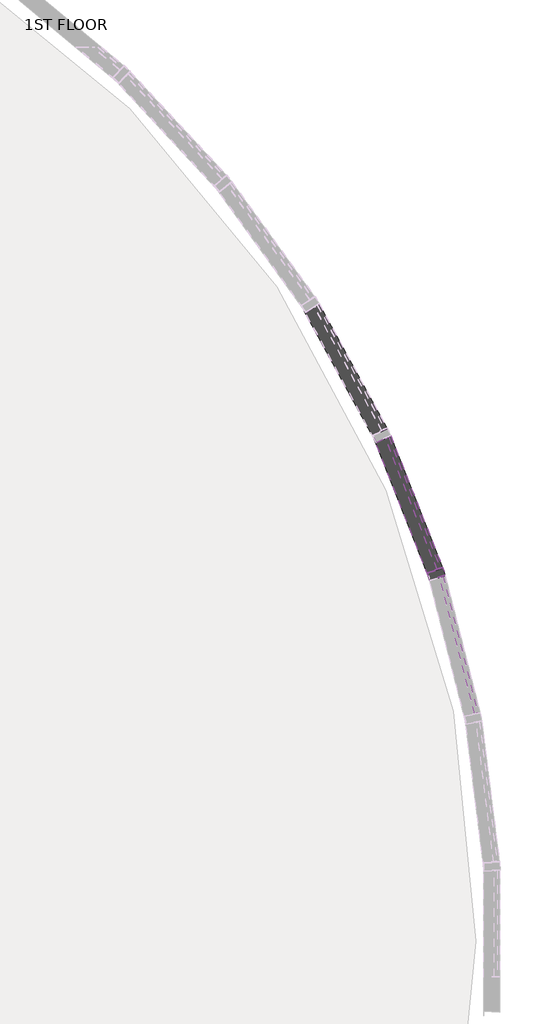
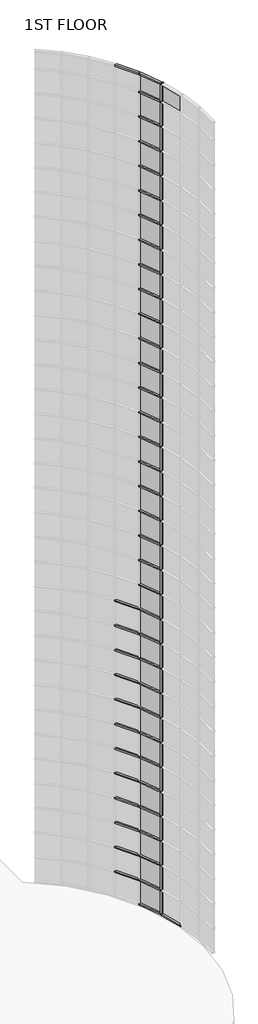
# One storey, part 10 of 17: 83 members, 35 plates.
"""IFC4 building model written with IfcOpenShell, lengths in millimetres."""

from ifc_helpers import new_model, si_unit, origin, place, context, project, spatial, transform, mapped, element, save
from components import member_56cb0dcd, member_0c249660, member_2b49869a, member_410c6227, system_panel_glazed_ce2914f7, system_panel_glazed_e049e42f, system_panel_glazed_5ae89cf9

model = new_model("IFC4")

# Units and contexts
model_context = context("Model", 3, world=origin())
ifc_project = project(units=[si_unit("LENGTHUNIT", "METRE", prefix="MILLI")], contexts=[model_context])

# Site, building, storey
site = spatial("IfcSite", under=ifc_project)
building = spatial("IfcBuilding", under=site)
storey = spatial("IfcBuildingStorey", under=building, Name="1ST FLOOR", Elevation=4572.0)

# Members
placement = place(None, origin())
member_shape = member_56cb0dcd(model_context)
element("IfcMember", 1, ObjectType="Rectangular Mullion : 2.5\" x 5\" rectangular", at=placement, inside=storey, context=model_context, shape_type="MappedRepresentation", body=[
    mapped(member_shape, transform((47383.2901045, 20886.3133681, 45720.0), x_axis=(0.0, 0.0, 1.0), y_axis=(-0.8776564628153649, -0.47929023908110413, 0.0), z_axis=(0.47929023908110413, -0.8776564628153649, 0.0))),
])
element("IfcMember", 2, ObjectType="Rectangular Mullion : 2.5\" x 5\" rectangular", at=placement, inside=storey, context=model_context, shape_type="MappedRepresentation", body=[
    mapped(member_shape, transform((47812.1210744, 19807.3148182, 45720.0), x_axis=(0.0, 0.0, 1.0), y_axis=(-0.9305499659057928, -0.36616493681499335, 0.0), z_axis=(0.3661649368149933, -0.9305499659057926, 0.0))),
])
element("IfcMember", 3, ObjectType="Rectangular Mullion : 2.5\" x 5\" rectangular", at=placement, inside=storey, context=model_context, shape_type="MappedRepresentation", body=[
    mapped(member_shape, transform((47410.1333063, 20828.902814, 4572.0), x_axis=(0.0, 0.0, -1.0), y_axis=(-0.9305499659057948, -0.3661649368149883, 0.0), z_axis=(-0.36616493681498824, 0.9305499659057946, 0.0))),
])
element("IfcMember", 4, ObjectType="Rectangular Mullion : 2.5\" x 5\" rectangular", at=placement, inside=storey, context=model_context, shape_type="MappedRepresentation", body=[
    mapped(member_shape, transform((47831.5995156, 19747.006282, 4572.0), x_axis=(0.0, 0.0, -1.0), y_axis=(-0.9689314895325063, -0.24732927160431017, 0.0), z_axis=(-0.24732927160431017, 0.9689314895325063, 0.0))),
])
member_2_shape = member_0c249660(model_context)
element("IfcMember", 5, ObjectType="Rectangular Mullion : 2.5\" x 5\" rectangular", at=placement, inside=storey, context=model_context, shape_type="MappedRepresentation", body=[
    mapped(member_2_shape, transform((47383.2901045, 20886.3133681, 5791.2), x_axis=(0.0, 0.0, 1.0), y_axis=(-0.8776564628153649, -0.47929023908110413, 0.0), z_axis=(0.47929023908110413, -0.8776564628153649, 0.0))),
])
element("IfcMember", 6, ObjectType="Rectangular Mullion : 2.5\" x 5\" rectangular", at=placement, inside=storey, context=model_context, shape_type="MappedRepresentation", body=[
    mapped(member_2_shape, transform((47812.1210744, 19807.3148182, 5791.2), x_axis=(0.0, 0.0, 1.0), y_axis=(-0.9305499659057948, -0.3661649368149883, 0.0), z_axis=(0.36616493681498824, -0.9305499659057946, 0.0))),
])
element("IfcMember", 7, ObjectType="Rectangular Mullion : 2.5\" x 5\" rectangular", at=placement, inside=storey, context=model_context, shape_type="MappedRepresentation", body=[
    mapped(member_2_shape, transform((47383.2901045, 20886.3133681, 7010.4), x_axis=(0.0, 0.0, 1.0), y_axis=(-0.8776564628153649, -0.47929023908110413, 0.0), z_axis=(0.47929023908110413, -0.8776564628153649, 0.0))),
])
element("IfcMember", 8, ObjectType="Rectangular Mullion : 2.5\" x 5\" rectangular", at=placement, inside=storey, context=model_context, shape_type="MappedRepresentation", body=[
    mapped(member_2_shape, transform((47812.1210744, 19807.3148182, 7010.4), x_axis=(0.0, 0.0, 1.0), y_axis=(-0.9305499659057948, -0.3661649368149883, 0.0), z_axis=(0.36616493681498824, -0.9305499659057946, 0.0))),
])
element("IfcMember", 9, ObjectType="Rectangular Mullion : 2.5\" x 5\" rectangular", at=placement, inside=storey, context=model_context, shape_type="MappedRepresentation", body=[
    mapped(member_2_shape, transform((47383.2901045, 20886.3133681, 8229.6), x_axis=(0.0, 0.0, 1.0), y_axis=(-0.8776564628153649, -0.47929023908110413, 0.0), z_axis=(0.47929023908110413, -0.8776564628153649, 0.0))),
])
element("IfcMember", 10, ObjectType="Rectangular Mullion : 2.5\" x 5\" rectangular", at=placement, inside=storey, context=model_context, shape_type="MappedRepresentation", body=[
    mapped(member_2_shape, transform((47812.1210744, 19807.3148182, 8229.6), x_axis=(0.0, 0.0, 1.0), y_axis=(-0.9305499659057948, -0.3661649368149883, 0.0), z_axis=(0.36616493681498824, -0.9305499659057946, 0.0))),
])
element("IfcMember", 11, ObjectType="Rectangular Mullion : 2.5\" x 5\" rectangular", at=placement, inside=storey, context=model_context, shape_type="MappedRepresentation", body=[
    mapped(member_2_shape, transform((47383.2901045, 20886.3133681, 9448.8), x_axis=(0.0, 0.0, 1.0), y_axis=(-0.87765646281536, -0.479290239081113, 0.0), z_axis=(0.479290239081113, -0.87765646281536, 0.0))),
])
element("IfcMember", 12, ObjectType="Rectangular Mullion : 2.5\" x 5\" rectangular", at=placement, inside=storey, context=model_context, shape_type="MappedRepresentation", body=[
    mapped(member_2_shape, transform((47812.1210744, 19807.3148182, 9448.8), x_axis=(0.0, 0.0, 1.0), y_axis=(-0.9305499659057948, -0.3661649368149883, 0.0), z_axis=(0.36616493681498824, -0.9305499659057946, 0.0))),
])
element("IfcMember", 13, ObjectType="Rectangular Mullion : 2.5\" x 5\" rectangular", at=placement, inside=storey, context=model_context, shape_type="MappedRepresentation", body=[
    mapped(member_2_shape, transform((47383.2901045, 20886.3133681, 10668.0), x_axis=(0.0, 0.0, 1.0), y_axis=(-0.87765646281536, -0.479290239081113, 0.0), z_axis=(0.479290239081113, -0.87765646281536, 0.0))),
])
element("IfcMember", 14, ObjectType="Rectangular Mullion : 2.5\" x 5\" rectangular", at=placement, inside=storey, context=model_context, shape_type="MappedRepresentation", body=[
    mapped(member_2_shape, transform((47812.1210744, 19807.3148182, 10668.0), x_axis=(0.0, 0.0, 1.0), y_axis=(-0.9305499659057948, -0.3661649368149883, 0.0), z_axis=(0.36616493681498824, -0.9305499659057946, 0.0))),
])
element("IfcMember", 15, ObjectType="Rectangular Mullion : 2.5\" x 5\" rectangular", at=placement, inside=storey, context=model_context, shape_type="MappedRepresentation", body=[
    mapped(member_2_shape, transform((47383.2901045, 20886.3133681, 11887.2), x_axis=(0.0, 0.0, 1.0), y_axis=(-0.87765646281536, -0.479290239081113, 0.0), z_axis=(0.479290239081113, -0.87765646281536, 0.0))),
])
element("IfcMember", 16, ObjectType="Rectangular Mullion : 2.5\" x 5\" rectangular", at=placement, inside=storey, context=model_context, shape_type="MappedRepresentation", body=[
    mapped(member_2_shape, transform((47812.1210744, 19807.3148182, 11887.2), x_axis=(0.0, 0.0, 1.0), y_axis=(-0.9305499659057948, -0.3661649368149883, 0.0), z_axis=(0.36616493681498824, -0.9305499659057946, 0.0))),
])
element("IfcMember", 17, ObjectType="Rectangular Mullion : 2.5\" x 5\" rectangular", at=placement, inside=storey, context=model_context, shape_type="MappedRepresentation", body=[
    mapped(member_2_shape, transform((47383.2901045, 20886.3133681, 13106.4), x_axis=(0.0, 0.0, 1.0), y_axis=(-0.87765646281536, -0.479290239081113, 0.0), z_axis=(0.479290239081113, -0.87765646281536, 0.0))),
])
element("IfcMember", 18, ObjectType="Rectangular Mullion : 2.5\" x 5\" rectangular", at=placement, inside=storey, context=model_context, shape_type="MappedRepresentation", body=[
    mapped(member_2_shape, transform((47812.1210744, 19807.3148182, 13106.4), x_axis=(0.0, 0.0, 1.0), y_axis=(-0.9305499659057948, -0.3661649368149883, 0.0), z_axis=(0.36616493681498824, -0.9305499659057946, 0.0))),
])
element("IfcMember", 19, ObjectType="Rectangular Mullion : 2.5\" x 5\" rectangular", at=placement, inside=storey, context=model_context, shape_type="MappedRepresentation", body=[
    mapped(member_2_shape, transform((47383.2901045, 20886.3133681, 14325.6), x_axis=(0.0, 0.0, 1.0), y_axis=(-0.87765646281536, -0.479290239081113, 0.0), z_axis=(0.479290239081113, -0.87765646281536, 0.0))),
])
element("IfcMember", 20, ObjectType="Rectangular Mullion : 2.5\" x 5\" rectangular", at=placement, inside=storey, context=model_context, shape_type="MappedRepresentation", body=[
    mapped(member_2_shape, transform((47812.1210744, 19807.3148182, 14325.6), x_axis=(0.0, 0.0, 1.0), y_axis=(-0.9305499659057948, -0.3661649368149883, 0.0), z_axis=(0.36616493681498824, -0.9305499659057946, 0.0))),
])
element("IfcMember", 21, ObjectType="Rectangular Mullion : 2.5\" x 5\" rectangular", at=placement, inside=storey, context=model_context, shape_type="MappedRepresentation", body=[
    mapped(member_2_shape, transform((47383.2901045, 20886.3133681, 15544.8), x_axis=(0.0, 0.0, 1.0), y_axis=(-0.87765646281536, -0.479290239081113, 0.0), z_axis=(0.479290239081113, -0.87765646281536, 0.0))),
])
element("IfcMember", 22, ObjectType="Rectangular Mullion : 2.5\" x 5\" rectangular", at=placement, inside=storey, context=model_context, shape_type="MappedRepresentation", body=[
    mapped(member_2_shape, transform((47812.1210744, 19807.3148182, 15544.8), x_axis=(0.0, 0.0, 1.0), y_axis=(-0.9305499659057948, -0.3661649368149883, 0.0), z_axis=(0.36616493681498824, -0.9305499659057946, 0.0))),
])
element("IfcMember", 23, ObjectType="Rectangular Mullion : 2.5\" x 5\" rectangular", at=placement, inside=storey, context=model_context, shape_type="MappedRepresentation", body=[
    mapped(member_2_shape, transform((47383.2901045, 20886.3133681, 16764.0), x_axis=(0.0, 0.0, 1.0), y_axis=(-0.87765646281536, -0.479290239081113, 0.0), z_axis=(0.479290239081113, -0.87765646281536, 0.0))),
])
element("IfcMember", 24, ObjectType="Rectangular Mullion : 2.5\" x 5\" rectangular", at=placement, inside=storey, context=model_context, shape_type="MappedRepresentation", body=[
    mapped(member_2_shape, transform((47812.1210744, 19807.3148182, 16764.0), x_axis=(0.0, 0.0, 1.0), y_axis=(-0.9305499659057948, -0.3661649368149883, 0.0), z_axis=(0.36616493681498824, -0.9305499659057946, 0.0))),
])
element("IfcMember", 25, ObjectType="Rectangular Mullion : 2.5\" x 5\" rectangular", at=placement, inside=storey, context=model_context, shape_type="MappedRepresentation", body=[
    mapped(member_2_shape, transform((47383.2901045, 20886.3133681, 17983.2), x_axis=(0.0, 0.0, 1.0), y_axis=(-0.87765646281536, -0.479290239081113, 0.0), z_axis=(0.479290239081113, -0.87765646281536, 0.0))),
])
element("IfcMember", 26, ObjectType="Rectangular Mullion : 2.5\" x 5\" rectangular", at=placement, inside=storey, context=model_context, shape_type="MappedRepresentation", body=[
    mapped(member_2_shape, transform((47812.1210744, 19807.3148182, 17983.2), x_axis=(0.0, 0.0, 1.0), y_axis=(-0.9305499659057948, -0.3661649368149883, 0.0), z_axis=(0.36616493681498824, -0.9305499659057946, 0.0))),
])
element("IfcMember", 27, ObjectType="Rectangular Mullion : 2.5\" x 5\" rectangular", at=placement, inside=storey, context=model_context, shape_type="MappedRepresentation", body=[
    mapped(member_2_shape, transform((47383.2901045, 20886.3133681, 19202.4), x_axis=(0.0, 0.0, 1.0), y_axis=(-0.87765646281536, -0.479290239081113, 0.0), z_axis=(0.479290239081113, -0.87765646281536, 0.0))),
])
element("IfcMember", 28, ObjectType="Rectangular Mullion : 2.5\" x 5\" rectangular", at=placement, inside=storey, context=model_context, shape_type="MappedRepresentation", body=[
    mapped(member_2_shape, transform((47812.1210744, 19807.3148182, 19202.4), x_axis=(0.0, 0.0, 1.0), y_axis=(-0.9305499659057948, -0.3661649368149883, 0.0), z_axis=(0.36616493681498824, -0.9305499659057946, 0.0))),
])
element("IfcMember", 29, ObjectType="Rectangular Mullion : 2.5\" x 5\" rectangular", at=placement, inside=storey, context=model_context, shape_type="MappedRepresentation", body=[
    mapped(member_2_shape, transform((47812.1210744, 19807.3148182, 20421.6), x_axis=(0.0, 0.0, 1.0), y_axis=(-0.9305499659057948, -0.3661649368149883, 0.0), z_axis=(0.36616493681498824, -0.9305499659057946, 0.0))),
])
element("IfcMember", 30, ObjectType="Rectangular Mullion : 2.5\" x 5\" rectangular", at=placement, inside=storey, context=model_context, shape_type="MappedRepresentation", body=[
    mapped(member_2_shape, transform((47812.1210744, 19807.3148182, 21640.8), x_axis=(0.0, 0.0, 1.0), y_axis=(-0.9305499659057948, -0.3661649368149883, 0.0), z_axis=(0.36616493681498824, -0.9305499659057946, 0.0))),
])
element("IfcMember", 31, ObjectType="Rectangular Mullion : 2.5\" x 5\" rectangular", at=placement, inside=storey, context=model_context, shape_type="MappedRepresentation", body=[
    mapped(member_2_shape, transform((47812.1210744, 19807.3148182, 22860.0), x_axis=(0.0, 0.0, 1.0), y_axis=(-0.9305499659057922, -0.3661649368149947, 0.0), z_axis=(0.3661649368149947, -0.9305499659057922, 0.0))),
])
element("IfcMember", 32, ObjectType="Rectangular Mullion : 2.5\" x 5\" rectangular", at=placement, inside=storey, context=model_context, shape_type="MappedRepresentation", body=[
    mapped(member_2_shape, transform((47812.1210744, 19807.3148182, 24079.2), x_axis=(0.0, 0.0, 1.0), y_axis=(-0.9305499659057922, -0.3661649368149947, 0.0), z_axis=(0.3661649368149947, -0.9305499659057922, 0.0))),
])
element("IfcMember", 33, ObjectType="Rectangular Mullion : 2.5\" x 5\" rectangular", at=placement, inside=storey, context=model_context, shape_type="MappedRepresentation", body=[
    mapped(member_2_shape, transform((47812.1210744, 19807.3148182, 25298.4), x_axis=(0.0, 0.0, 1.0), y_axis=(-0.9305499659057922, -0.3661649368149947, 0.0), z_axis=(0.3661649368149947, -0.9305499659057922, 0.0))),
])
element("IfcMember", 34, ObjectType="Rectangular Mullion : 2.5\" x 5\" rectangular", at=placement, inside=storey, context=model_context, shape_type="MappedRepresentation", body=[
    mapped(member_2_shape, transform((47812.1210744, 19807.3148182, 26517.6), x_axis=(0.0, 0.0, 1.0), y_axis=(-0.9305499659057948, -0.3661649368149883, 0.0), z_axis=(0.36616493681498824, -0.9305499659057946, 0.0))),
])
element("IfcMember", 35, ObjectType="Rectangular Mullion : 2.5\" x 5\" rectangular", at=placement, inside=storey, context=model_context, shape_type="MappedRepresentation", body=[
    mapped(member_2_shape, transform((47812.1210744, 19807.3148182, 27736.8), x_axis=(0.0, 0.0, 1.0), y_axis=(-0.9305499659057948, -0.3661649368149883, 0.0), z_axis=(0.36616493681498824, -0.9305499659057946, 0.0))),
])
element("IfcMember", 36, ObjectType="Rectangular Mullion : 2.5\" x 5\" rectangular", at=placement, inside=storey, context=model_context, shape_type="MappedRepresentation", body=[
    mapped(member_2_shape, transform((47812.1210744, 19807.3148182, 28956.0), x_axis=(0.0, 0.0, 1.0), y_axis=(-0.9305499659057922, -0.3661649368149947, 0.0), z_axis=(0.3661649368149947, -0.9305499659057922, 0.0))),
])
element("IfcMember", 37, ObjectType="Rectangular Mullion : 2.5\" x 5\" rectangular", at=placement, inside=storey, context=model_context, shape_type="MappedRepresentation", body=[
    mapped(member_2_shape, transform((47812.1210744, 19807.3148182, 30175.2), x_axis=(0.0, 0.0, 1.0), y_axis=(-0.9305499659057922, -0.3661649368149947, 0.0), z_axis=(0.3661649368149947, -0.9305499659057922, 0.0))),
])
element("IfcMember", 38, ObjectType="Rectangular Mullion : 2.5\" x 5\" rectangular", at=placement, inside=storey, context=model_context, shape_type="MappedRepresentation", body=[
    mapped(member_2_shape, transform((47812.1210744, 19807.3148182, 31394.4), x_axis=(0.0, 0.0, 1.0), y_axis=(-0.9305499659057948, -0.3661649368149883, 0.0), z_axis=(0.36616493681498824, -0.9305499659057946, 0.0))),
])
element("IfcMember", 39, ObjectType="Rectangular Mullion : 2.5\" x 5\" rectangular", at=placement, inside=storey, context=model_context, shape_type="MappedRepresentation", body=[
    mapped(member_2_shape, transform((47812.1210744, 19807.3148182, 32613.6), x_axis=(0.0, 0.0, 1.0), y_axis=(-0.9305499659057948, -0.3661649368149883, 0.0), z_axis=(0.36616493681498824, -0.9305499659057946, 0.0))),
])
element("IfcMember", 40, ObjectType="Rectangular Mullion : 2.5\" x 5\" rectangular", at=placement, inside=storey, context=model_context, shape_type="MappedRepresentation", body=[
    mapped(member_2_shape, transform((47812.1210744, 19807.3148182, 33832.8), x_axis=(0.0, 0.0, 1.0), y_axis=(-0.9305499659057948, -0.3661649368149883, 0.0), z_axis=(0.36616493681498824, -0.9305499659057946, 0.0))),
])
element("IfcMember", 41, ObjectType="Rectangular Mullion : 2.5\" x 5\" rectangular", at=placement, inside=storey, context=model_context, shape_type="MappedRepresentation", body=[
    mapped(member_2_shape, transform((47812.1210744, 19807.3148182, 35052.0), x_axis=(0.0, 0.0, 1.0), y_axis=(-0.9305499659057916, -0.36616493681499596, 0.0), z_axis=(0.36616493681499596, -0.9305499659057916, 0.0))),
])
element("IfcMember", 42, ObjectType="Rectangular Mullion : 2.5\" x 5\" rectangular", at=placement, inside=storey, context=model_context, shape_type="MappedRepresentation", body=[
    mapped(member_2_shape, transform((47812.1210744, 19807.3148182, 36271.2), x_axis=(0.0, 0.0, 1.0), y_axis=(-0.9305499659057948, -0.3661649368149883, 0.0), z_axis=(0.36616493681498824, -0.9305499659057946, 0.0))),
])
element("IfcMember", 43, ObjectType="Rectangular Mullion : 2.5\" x 5\" rectangular", at=placement, inside=storey, context=model_context, shape_type="MappedRepresentation", body=[
    mapped(member_2_shape, transform((47812.1210744, 19807.3148182, 37490.4), x_axis=(0.0, 0.0, 1.0), y_axis=(-0.9305499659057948, -0.3661649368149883, 0.0), z_axis=(0.36616493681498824, -0.9305499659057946, 0.0))),
])
element("IfcMember", 44, ObjectType="Rectangular Mullion : 2.5\" x 5\" rectangular", at=placement, inside=storey, context=model_context, shape_type="MappedRepresentation", body=[
    mapped(member_2_shape, transform((47812.1210744, 19807.3148182, 38709.6), x_axis=(0.0, 0.0, 1.0), y_axis=(-0.9305499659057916, -0.36616493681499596, 0.0), z_axis=(0.36616493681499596, -0.9305499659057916, 0.0))),
])
element("IfcMember", 45, ObjectType="Rectangular Mullion : 2.5\" x 5\" rectangular", at=placement, inside=storey, context=model_context, shape_type="MappedRepresentation", body=[
    mapped(member_2_shape, transform((47812.1210744, 19807.3148182, 39928.8), x_axis=(0.0, 0.0, 1.0), y_axis=(-0.9305499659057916, -0.36616493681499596, 0.0), z_axis=(0.36616493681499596, -0.9305499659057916, 0.0))),
])
element("IfcMember", 46, ObjectType="Rectangular Mullion : 2.5\" x 5\" rectangular", at=placement, inside=storey, context=model_context, shape_type="MappedRepresentation", body=[
    mapped(member_2_shape, transform((47812.1210744, 19807.3148182, 41148.0), x_axis=(0.0, 0.0, 1.0), y_axis=(-0.9305499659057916, -0.36616493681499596, 0.0), z_axis=(0.36616493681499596, -0.9305499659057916, 0.0))),
])
element("IfcMember", 47, ObjectType="Rectangular Mullion : 2.5\" x 5\" rectangular", at=placement, inside=storey, context=model_context, shape_type="MappedRepresentation", body=[
    mapped(member_2_shape, transform((47812.1210744, 19807.3148182, 42367.2), x_axis=(0.0, 0.0, 1.0), y_axis=(-0.9305499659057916, -0.36616493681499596, 0.0), z_axis=(0.36616493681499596, -0.9305499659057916, 0.0))),
])
element("IfcMember", 48, ObjectType="Rectangular Mullion : 2.5\" x 5\" rectangular", at=placement, inside=storey, context=model_context, shape_type="MappedRepresentation", body=[
    mapped(member_2_shape, transform((47812.1210744, 19807.3148182, 43586.4), x_axis=(0.0, 0.0, 1.0), y_axis=(-0.9305499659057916, -0.36616493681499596, 0.0), z_axis=(0.36616493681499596, -0.9305499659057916, 0.0))),
])
element("IfcMember", 49, ObjectType="Rectangular Mullion : 2.5\" x 5\" rectangular", at=placement, inside=storey, context=model_context, shape_type="MappedRepresentation", body=[
    mapped(member_2_shape, transform((47812.1210744, 19807.3148182, 44805.6), x_axis=(0.0, 0.0, 1.0), y_axis=(-0.9305499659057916, -0.36616493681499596, 0.0), z_axis=(0.36616493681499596, -0.9305499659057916, 0.0))),
])
member_3_shape = member_2b49869a(model_context)
element("IfcMember", 50, ObjectType="Rectangular Mullion : 2.5\" x 5\" rectangular", at=placement, inside=storey, context=model_context, shape_type="MappedRepresentation", body=[
    mapped(member_3_shape, transform((47823.7468112, 19777.7698568, 4572.0), x_axis=(0.30734682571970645, -0.9515975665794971, 0.0), y_axis=(-0.9515975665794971, -0.30734682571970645, 0.0), z_axis=(0.0, 0.0, -1.0))),
])
element("IfcMember", 51, ObjectType="Rectangular Mullion : 2.5\" x 5\" rectangular", at=placement, inside=storey, context=model_context, shape_type="MappedRepresentation", body=[
    mapped(member_3_shape, transform((47823.7468112, 19777.7698568, 5791.2), x_axis=(0.30734682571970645, -0.9515975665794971, 0.0), y_axis=(-0.9515975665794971, -0.30734682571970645, 0.0), z_axis=(0.0, 0.0, -1.0))),
])
element("IfcMember", 52, ObjectType="Rectangular Mullion : 2.5\" x 5\" rectangular", at=placement, inside=storey, context=model_context, shape_type="MappedRepresentation", body=[
    mapped(member_3_shape, transform((47823.7468112, 19777.7698568, 7010.4), x_axis=(0.30734682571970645, -0.9515975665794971, 0.0), y_axis=(-0.9515975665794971, -0.30734682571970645, 0.0), z_axis=(0.0, 0.0, -1.0))),
])
element("IfcMember", 53, ObjectType="Rectangular Mullion : 2.5\" x 5\" rectangular", at=placement, inside=storey, context=model_context, shape_type="MappedRepresentation", body=[
    mapped(member_3_shape, transform((47823.7468112, 19777.7698568, 8229.6), x_axis=(0.30734682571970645, -0.9515975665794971, 0.0), y_axis=(-0.9515975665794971, -0.30734682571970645, 0.0), z_axis=(0.0, 0.0, -1.0))),
])
element("IfcMember", 54, ObjectType="Rectangular Mullion : 2.5\" x 5\" rectangular", at=placement, inside=storey, context=model_context, shape_type="MappedRepresentation", body=[
    mapped(member_3_shape, transform((47823.7468112, 19777.7698568, 9448.8), x_axis=(0.30734682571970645, -0.9515975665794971, 0.0), y_axis=(-0.9515975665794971, -0.30734682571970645, 0.0), z_axis=(0.0, 0.0, -1.0))),
])
element("IfcMember", 55, ObjectType="Rectangular Mullion : 2.5\" x 5\" rectangular", at=placement, inside=storey, context=model_context, shape_type="MappedRepresentation", body=[
    mapped(member_3_shape, transform((47823.7468112, 19777.7698568, 10668.0), x_axis=(0.30734682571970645, -0.9515975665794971, 0.0), y_axis=(-0.9515975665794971, -0.30734682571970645, 0.0), z_axis=(0.0, 0.0, -1.0))),
])
element("IfcMember", 56, ObjectType="Rectangular Mullion : 2.5\" x 5\" rectangular", at=placement, inside=storey, context=model_context, shape_type="MappedRepresentation", body=[
    mapped(member_3_shape, transform((47823.7468112, 19777.7698568, 11887.2), x_axis=(0.30734682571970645, -0.9515975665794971, 0.0), y_axis=(-0.9515975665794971, -0.30734682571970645, 0.0), z_axis=(0.0, 0.0, -1.0))),
])
element("IfcMember", 57, ObjectType="Rectangular Mullion : 2.5\" x 5\" rectangular", at=placement, inside=storey, context=model_context, shape_type="MappedRepresentation", body=[
    mapped(member_3_shape, transform((47823.7468112, 19777.7698568, 13106.4), x_axis=(0.30734682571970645, -0.9515975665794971, 0.0), y_axis=(-0.9515975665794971, -0.30734682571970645, 0.0), z_axis=(0.0, 0.0, -1.0))),
])
element("IfcMember", 58, ObjectType="Rectangular Mullion : 2.5\" x 5\" rectangular", at=placement, inside=storey, context=model_context, shape_type="MappedRepresentation", body=[
    mapped(member_3_shape, transform((47823.7468112, 19777.7698568, 14325.6), x_axis=(0.30734682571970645, -0.9515975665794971, 0.0), y_axis=(-0.9515975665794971, -0.30734682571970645, 0.0), z_axis=(0.0, 0.0, -1.0))),
])
element("IfcMember", 59, ObjectType="Rectangular Mullion : 2.5\" x 5\" rectangular", at=placement, inside=storey, context=model_context, shape_type="MappedRepresentation", body=[
    mapped(member_3_shape, transform((47823.7468112, 19777.7698568, 15544.8), x_axis=(0.30734682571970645, -0.9515975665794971, 0.0), y_axis=(-0.9515975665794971, -0.30734682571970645, 0.0), z_axis=(0.0, 0.0, -1.0))),
])
element("IfcMember", 60, ObjectType="Rectangular Mullion : 2.5\" x 5\" rectangular", at=placement, inside=storey, context=model_context, shape_type="MappedRepresentation", body=[
    mapped(member_3_shape, transform((47823.7468112, 19777.7698568, 16764.0), x_axis=(0.30734682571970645, -0.9515975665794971, 0.0), y_axis=(-0.9515975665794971, -0.30734682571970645, 0.0), z_axis=(0.0, 0.0, -1.0))),
])
element("IfcMember", 61, ObjectType="Rectangular Mullion : 2.5\" x 5\" rectangular", at=placement, inside=storey, context=model_context, shape_type="MappedRepresentation", body=[
    mapped(member_3_shape, transform((47823.7468112, 19777.7698568, 17983.2), x_axis=(0.30734682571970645, -0.9515975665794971, 0.0), y_axis=(-0.9515975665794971, -0.30734682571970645, 0.0), z_axis=(0.0, 0.0, -1.0))),
])
element("IfcMember", 62, ObjectType="Rectangular Mullion : 2.5\" x 5\" rectangular", at=placement, inside=storey, context=model_context, shape_type="MappedRepresentation", body=[
    mapped(member_3_shape, transform((47823.7468112, 19777.7698568, 19202.4), x_axis=(0.30734682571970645, -0.9515975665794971, 0.0), y_axis=(-0.9515975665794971, -0.30734682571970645, 0.0), z_axis=(0.0, 0.0, -1.0))),
])
element("IfcMember", 63, ObjectType="Rectangular Mullion : 2.5\" x 5\" rectangular", at=placement, inside=storey, context=model_context, shape_type="MappedRepresentation", body=[
    mapped(member_3_shape, transform((47823.7468112, 19777.7698568, 20421.6), x_axis=(0.30734682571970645, -0.9515975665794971, 0.0), y_axis=(-0.9515975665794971, -0.30734682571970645, 0.0), z_axis=(0.0, 0.0, -1.0))),
])
element("IfcMember", 64, ObjectType="Rectangular Mullion : 2.5\" x 5\" rectangular", at=placement, inside=storey, context=model_context, shape_type="MappedRepresentation", body=[
    mapped(member_3_shape, transform((47823.7468112, 19777.7698568, 21640.8), x_axis=(0.30734682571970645, -0.9515975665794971, 0.0), y_axis=(-0.9515975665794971, -0.30734682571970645, 0.0), z_axis=(0.0, 0.0, -1.0))),
])
element("IfcMember", 65, ObjectType="Rectangular Mullion : 2.5\" x 5\" rectangular", at=placement, inside=storey, context=model_context, shape_type="MappedRepresentation", body=[
    mapped(member_3_shape, transform((47823.7468112, 19777.7698568, 22860.0), x_axis=(0.3073468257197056, -0.9515975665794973, 0.0), y_axis=(-0.9515975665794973, -0.3073468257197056, 0.0), z_axis=(0.0, 0.0, -1.0))),
])
element("IfcMember", 66, ObjectType="Rectangular Mullion : 2.5\" x 5\" rectangular", at=placement, inside=storey, context=model_context, shape_type="MappedRepresentation", body=[
    mapped(member_3_shape, transform((47823.7468112, 19777.7698568, 24079.2), x_axis=(0.3073468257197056, -0.9515975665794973, 0.0), y_axis=(-0.9515975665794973, -0.3073468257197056, 0.0), z_axis=(0.0, 0.0, -1.0))),
])
element("IfcMember", 67, ObjectType="Rectangular Mullion : 2.5\" x 5\" rectangular", at=placement, inside=storey, context=model_context, shape_type="MappedRepresentation", body=[
    mapped(member_3_shape, transform((47823.7468112, 19777.7698568, 25298.4), x_axis=(0.3073468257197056, -0.9515975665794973, 0.0), y_axis=(-0.9515975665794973, -0.3073468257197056, 0.0), z_axis=(0.0, 0.0, -1.0))),
])
element("IfcMember", 68, ObjectType="Rectangular Mullion : 2.5\" x 5\" rectangular", at=placement, inside=storey, context=model_context, shape_type="MappedRepresentation", body=[
    mapped(member_3_shape, transform((47823.7468112, 19777.7698568, 26517.6), x_axis=(0.30734682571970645, -0.9515975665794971, 0.0), y_axis=(-0.9515975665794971, -0.30734682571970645, 0.0), z_axis=(0.0, 0.0, -1.0))),
])
element("IfcMember", 69, ObjectType="Rectangular Mullion : 2.5\" x 5\" rectangular", at=placement, inside=storey, context=model_context, shape_type="MappedRepresentation", body=[
    mapped(member_3_shape, transform((47823.7468112, 19777.7698568, 27736.8), x_axis=(0.30734682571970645, -0.9515975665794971, 0.0), y_axis=(-0.9515975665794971, -0.30734682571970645, 0.0), z_axis=(0.0, 0.0, -1.0))),
])
element("IfcMember", 70, ObjectType="Rectangular Mullion : 2.5\" x 5\" rectangular", at=placement, inside=storey, context=model_context, shape_type="MappedRepresentation", body=[
    mapped(member_3_shape, transform((47823.7468112, 19777.7698568, 28956.0), x_axis=(0.3073468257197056, -0.9515975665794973, 0.0), y_axis=(-0.9515975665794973, -0.3073468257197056, 0.0), z_axis=(0.0, 0.0, -1.0))),
])
element("IfcMember", 71, ObjectType="Rectangular Mullion : 2.5\" x 5\" rectangular", at=placement, inside=storey, context=model_context, shape_type="MappedRepresentation", body=[
    mapped(member_3_shape, transform((47823.7468112, 19777.7698568, 30175.2), x_axis=(0.3073468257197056, -0.9515975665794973, 0.0), y_axis=(-0.9515975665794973, -0.3073468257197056, 0.0), z_axis=(0.0, 0.0, -1.0))),
])
element("IfcMember", 72, ObjectType="Rectangular Mullion : 2.5\" x 5\" rectangular", at=placement, inside=storey, context=model_context, shape_type="MappedRepresentation", body=[
    mapped(member_3_shape, transform((47823.7468112, 19777.7698568, 31394.4), x_axis=(0.30734682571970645, -0.9515975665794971, 0.0), y_axis=(-0.9515975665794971, -0.30734682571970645, 0.0), z_axis=(0.0, 0.0, -1.0))),
])
element("IfcMember", 73, ObjectType="Rectangular Mullion : 2.5\" x 5\" rectangular", at=placement, inside=storey, context=model_context, shape_type="MappedRepresentation", body=[
    mapped(member_3_shape, transform((47823.7468112, 19777.7698568, 32613.6), x_axis=(0.30734682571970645, -0.9515975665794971, 0.0), y_axis=(-0.9515975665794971, -0.30734682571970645, 0.0), z_axis=(0.0, 0.0, -1.0))),
])
element("IfcMember", 74, ObjectType="Rectangular Mullion : 2.5\" x 5\" rectangular", at=placement, inside=storey, context=model_context, shape_type="MappedRepresentation", body=[
    mapped(member_3_shape, transform((47823.7468112, 19777.7698568, 33832.8), x_axis=(0.30734682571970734, -0.9515975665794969, 0.0), y_axis=(-0.9515975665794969, -0.30734682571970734, 0.0), z_axis=(0.0, 0.0, -1.0))),
])
element("IfcMember", 75, ObjectType="Rectangular Mullion : 2.5\" x 5\" rectangular", at=placement, inside=storey, context=model_context, shape_type="MappedRepresentation", body=[
    mapped(member_3_shape, transform((47823.7468112, 19777.7698568, 35052.0), x_axis=(0.30734682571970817, -0.9515975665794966, 0.0), y_axis=(-0.9515975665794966, -0.30734682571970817, 0.0), z_axis=(0.0, 0.0, -1.0))),
])
element("IfcMember", 76, ObjectType="Rectangular Mullion : 2.5\" x 5\" rectangular", at=placement, inside=storey, context=model_context, shape_type="MappedRepresentation", body=[
    mapped(member_3_shape, transform((47823.7468112, 19777.7698568, 36271.2), x_axis=(0.30734682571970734, -0.9515975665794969, 0.0), y_axis=(-0.9515975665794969, -0.30734682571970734, 0.0), z_axis=(0.0, 0.0, -1.0))),
])
element("IfcMember", 77, ObjectType="Rectangular Mullion : 2.5\" x 5\" rectangular", at=placement, inside=storey, context=model_context, shape_type="MappedRepresentation", body=[
    mapped(member_3_shape, transform((47823.7468112, 19777.7698568, 37490.4), x_axis=(0.30734682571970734, -0.9515975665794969, 0.0), y_axis=(-0.9515975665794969, -0.30734682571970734, 0.0), z_axis=(0.0, 0.0, -1.0))),
])
element("IfcMember", 78, ObjectType="Rectangular Mullion : 2.5\" x 5\" rectangular", at=placement, inside=storey, context=model_context, shape_type="MappedRepresentation", body=[
    mapped(member_3_shape, transform((47823.7468112, 19777.7698568, 38709.6), x_axis=(0.30734682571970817, -0.9515975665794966, 0.0), y_axis=(-0.9515975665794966, -0.30734682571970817, 0.0), z_axis=(0.0, 0.0, -1.0))),
])
element("IfcMember", 79, ObjectType="Rectangular Mullion : 2.5\" x 5\" rectangular", at=placement, inside=storey, context=model_context, shape_type="MappedRepresentation", body=[
    mapped(member_3_shape, transform((47823.7468112, 19777.7698568, 39928.8), x_axis=(0.30734682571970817, -0.9515975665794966, 0.0), y_axis=(-0.9515975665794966, -0.30734682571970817, 0.0), z_axis=(0.0, 0.0, -1.0))),
])
element("IfcMember", 80, ObjectType="Rectangular Mullion : 2.5\" x 5\" rectangular", at=placement, inside=storey, context=model_context, shape_type="MappedRepresentation", body=[
    mapped(member_3_shape, transform((47823.7468112, 19777.7698568, 41148.0), x_axis=(0.30734682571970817, -0.9515975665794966, 0.0), y_axis=(-0.9515975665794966, -0.30734682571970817, 0.0), z_axis=(0.0, 0.0, -1.0))),
])
element("IfcMember", 81, ObjectType="Rectangular Mullion : 2.5\" x 5\" rectangular", at=placement, inside=storey, context=model_context, shape_type="MappedRepresentation", body=[
    mapped(member_3_shape, transform((47823.7468112, 19777.7698568, 42367.2), x_axis=(0.30734682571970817, -0.9515975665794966, 0.0), y_axis=(-0.9515975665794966, -0.30734682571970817, 0.0), z_axis=(0.0, 0.0, -1.0))),
])
element("IfcMember", 82, ObjectType="Rectangular Mullion : 2.5\" x 5\" rectangular", at=placement, inside=storey, context=model_context, shape_type="MappedRepresentation", body=[
    mapped(member_3_shape, transform((47823.7468112, 19777.7698568, 43586.4), x_axis=(0.30734682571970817, -0.9515975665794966, 0.0), y_axis=(-0.9515975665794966, -0.30734682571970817, 0.0), z_axis=(0.0, 0.0, -1.0))),
])
member_4_shape = member_410c6227(model_context)
element("IfcMember", 83, ObjectType="Rectangular Mullion : 2.5\" x 5\" rectangular", at=placement, inside=storey, context=model_context, shape_type="MappedRepresentation", body=[
    mapped(member_4_shape, transform((47823.7468112, 19777.7698568, 44805.6), x_axis=(0.30734682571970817, -0.9515975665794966, 0.0), y_axis=(-0.9515975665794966, -0.30734682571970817, 0.0), z_axis=(0.0, 0.0, -1.0))),
])

# Plates
system_panel_glazed_shape = system_panel_glazed_ce2914f7(model_context)
element("IfcPlate", 84, ObjectType="System Panel : Glazed", at=placement, inside=storey, context=model_context, shape_type="MappedRepresentation", body=[
    mapped(system_panel_glazed_shape, transform((47611.1271904, 20318.1088161, 4635.5), x_axis=(0.3661649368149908, -0.9305499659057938, 0.0), y_axis=(0.9305499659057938, 0.3661649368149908, 0.0), z_axis=(0.0, 0.0, 1.0))),
])
system_panel_glazed_2_shape = system_panel_glazed_e049e42f(model_context)
element("IfcPlate", 85, ObjectType="System Panel : Glazed", at=placement, inside=storey, context=model_context, shape_type="MappedRepresentation", body=[
    mapped(system_panel_glazed_2_shape, transform((47611.1271904, 20318.1088161, 5822.95), x_axis=(0.3661649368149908, -0.9305499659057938, 0.0), y_axis=(0.9305499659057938, 0.3661649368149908, 0.0), z_axis=(0.0, 0.0, 1.0))),
])
element("IfcPlate", 86, ObjectType="System Panel : Glazed", at=placement, inside=storey, context=model_context, shape_type="MappedRepresentation", body=[
    mapped(system_panel_glazed_2_shape, transform((47611.1271904, 20318.1088161, 7042.15), x_axis=(0.3661649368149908, -0.9305499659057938, 0.0), y_axis=(0.9305499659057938, 0.3661649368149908, 0.0), z_axis=(0.0, 0.0, 1.0))),
])
element("IfcPlate", 87, ObjectType="System Panel : Glazed", at=placement, inside=storey, context=model_context, shape_type="MappedRepresentation", body=[
    mapped(system_panel_glazed_2_shape, transform((47611.1271904, 20318.1088161, 8261.35), x_axis=(0.3661649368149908, -0.9305499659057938, 0.0), y_axis=(0.9305499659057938, 0.3661649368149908, 0.0), z_axis=(0.0, 0.0, 1.0))),
])
element("IfcPlate", 88, ObjectType="System Panel : Glazed", at=placement, inside=storey, context=model_context, shape_type="MappedRepresentation", body=[
    mapped(system_panel_glazed_2_shape, transform((47611.1271904, 20318.1088161, 9480.55), x_axis=(0.3661649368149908, -0.9305499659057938, 0.0), y_axis=(0.9305499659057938, 0.3661649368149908, 0.0), z_axis=(0.0, 0.0, 1.0))),
])
element("IfcPlate", 89, ObjectType="System Panel : Glazed", at=placement, inside=storey, context=model_context, shape_type="MappedRepresentation", body=[
    mapped(system_panel_glazed_2_shape, transform((47611.1271904, 20318.1088161, 10699.75), x_axis=(0.3661649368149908, -0.9305499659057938, 0.0), y_axis=(0.9305499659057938, 0.3661649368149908, 0.0), z_axis=(0.0, 0.0, 1.0))),
])
element("IfcPlate", 90, ObjectType="System Panel : Glazed", at=placement, inside=storey, context=model_context, shape_type="MappedRepresentation", body=[
    mapped(system_panel_glazed_2_shape, transform((47611.1271904, 20318.1088161, 11918.95), x_axis=(0.3661649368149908, -0.9305499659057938, 0.0), y_axis=(0.9305499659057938, 0.3661649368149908, 0.0), z_axis=(0.0, 0.0, 1.0))),
])
element("IfcPlate", 91, ObjectType="System Panel : Glazed", at=placement, inside=storey, context=model_context, shape_type="MappedRepresentation", body=[
    mapped(system_panel_glazed_2_shape, transform((47611.1271904, 20318.1088161, 13138.15), x_axis=(0.3661649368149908, -0.9305499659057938, 0.0), y_axis=(0.9305499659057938, 0.3661649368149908, 0.0), z_axis=(0.0, 0.0, 1.0))),
])
element("IfcPlate", 92, ObjectType="System Panel : Glazed", at=placement, inside=storey, context=model_context, shape_type="MappedRepresentation", body=[
    mapped(system_panel_glazed_2_shape, transform((47611.1271904, 20318.1088161, 14357.35), x_axis=(0.3661649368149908, -0.9305499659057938, 0.0), y_axis=(0.9305499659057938, 0.3661649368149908, 0.0), z_axis=(0.0, 0.0, 1.0))),
])
element("IfcPlate", 93, ObjectType="System Panel : Glazed", at=placement, inside=storey, context=model_context, shape_type="MappedRepresentation", body=[
    mapped(system_panel_glazed_2_shape, transform((47611.1271904, 20318.1088161, 15576.55), x_axis=(0.3661649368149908, -0.9305499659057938, 0.0), y_axis=(0.9305499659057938, 0.3661649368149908, 0.0), z_axis=(0.0, 0.0, 1.0))),
])
element("IfcPlate", 94, ObjectType="System Panel : Glazed", at=placement, inside=storey, context=model_context, shape_type="MappedRepresentation", body=[
    mapped(system_panel_glazed_2_shape, transform((47611.1271904, 20318.1088161, 16795.75), x_axis=(0.3661649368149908, -0.9305499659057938, 0.0), y_axis=(0.9305499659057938, 0.3661649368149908, 0.0), z_axis=(0.0, 0.0, 1.0))),
])
element("IfcPlate", 95, ObjectType="System Panel : Glazed", at=placement, inside=storey, context=model_context, shape_type="MappedRepresentation", body=[
    mapped(system_panel_glazed_2_shape, transform((47611.1271904, 20318.1088161, 18014.95), x_axis=(0.3661649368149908, -0.9305499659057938, 0.0), y_axis=(0.9305499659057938, 0.3661649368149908, 0.0), z_axis=(0.0, 0.0, 1.0))),
])
element("IfcPlate", 96, ObjectType="System Panel : Glazed", at=placement, inside=storey, context=model_context, shape_type="MappedRepresentation", body=[
    mapped(system_panel_glazed_2_shape, transform((47611.1271904, 20318.1088161, 19234.15), x_axis=(0.3661649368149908, -0.9305499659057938, 0.0), y_axis=(0.9305499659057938, 0.3661649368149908, 0.0), z_axis=(0.0, 0.0, 1.0))),
])
element("IfcPlate", 97, ObjectType="System Panel : Glazed", at=placement, inside=storey, context=model_context, shape_type="MappedRepresentation", body=[
    mapped(system_panel_glazed_2_shape, transform((47611.1271904, 20318.1088161, 20453.35), x_axis=(0.3661649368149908, -0.9305499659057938, 0.0), y_axis=(0.9305499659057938, 0.3661649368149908, 0.0), z_axis=(0.0, 0.0, 1.0))),
])
element("IfcPlate", 98, ObjectType="System Panel : Glazed", at=placement, inside=storey, context=model_context, shape_type="MappedRepresentation", body=[
    mapped(system_panel_glazed_2_shape, transform((47611.1271904, 20318.1088161, 21672.55), x_axis=(0.3661649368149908, -0.9305499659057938, 0.0), y_axis=(0.9305499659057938, 0.3661649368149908, 0.0), z_axis=(0.0, 0.0, 1.0))),
])
element("IfcPlate", 99, ObjectType="System Panel : Glazed", at=placement, inside=storey, context=model_context, shape_type="MappedRepresentation", body=[
    mapped(system_panel_glazed_2_shape, transform((47611.1271904, 20318.1088161, 22891.75), x_axis=(0.3661649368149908, -0.9305499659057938, 0.0), y_axis=(0.9305499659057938, 0.3661649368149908, 0.0), z_axis=(0.0, 0.0, 1.0))),
])
element("IfcPlate", 100, ObjectType="System Panel : Glazed", at=placement, inside=storey, context=model_context, shape_type="MappedRepresentation", body=[
    mapped(system_panel_glazed_2_shape, transform((47611.1271904, 20318.1088161, 24110.95), x_axis=(0.3661649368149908, -0.9305499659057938, 0.0), y_axis=(0.9305499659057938, 0.3661649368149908, 0.0), z_axis=(0.0, 0.0, 1.0))),
])
element("IfcPlate", 101, ObjectType="System Panel : Glazed", at=placement, inside=storey, context=model_context, shape_type="MappedRepresentation", body=[
    mapped(system_panel_glazed_2_shape, transform((47611.1271904, 20318.1088161, 25330.15), x_axis=(0.3661649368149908, -0.9305499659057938, 0.0), y_axis=(0.9305499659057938, 0.3661649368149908, 0.0), z_axis=(0.0, 0.0, 1.0))),
])
element("IfcPlate", 102, ObjectType="System Panel : Glazed", at=placement, inside=storey, context=model_context, shape_type="MappedRepresentation", body=[
    mapped(system_panel_glazed_2_shape, transform((47611.1271904, 20318.1088161, 26549.35), x_axis=(0.3661649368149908, -0.9305499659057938, 0.0), y_axis=(0.9305499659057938, 0.3661649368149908, 0.0), z_axis=(0.0, 0.0, 1.0))),
])
element("IfcPlate", 103, ObjectType="System Panel : Glazed", at=placement, inside=storey, context=model_context, shape_type="MappedRepresentation", body=[
    mapped(system_panel_glazed_2_shape, transform((47611.1271904, 20318.1088161, 27768.55), x_axis=(0.3661649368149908, -0.9305499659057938, 0.0), y_axis=(0.9305499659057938, 0.3661649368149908, 0.0), z_axis=(0.0, 0.0, 1.0))),
])
element("IfcPlate", 104, ObjectType="System Panel : Glazed", at=placement, inside=storey, context=model_context, shape_type="MappedRepresentation", body=[
    mapped(system_panel_glazed_2_shape, transform((47611.1271904, 20318.1088161, 28987.75), x_axis=(0.3661649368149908, -0.9305499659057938, 0.0), y_axis=(0.9305499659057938, 0.3661649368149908, 0.0), z_axis=(0.0, 0.0, 1.0))),
])
element("IfcPlate", 105, ObjectType="System Panel : Glazed", at=placement, inside=storey, context=model_context, shape_type="MappedRepresentation", body=[
    mapped(system_panel_glazed_2_shape, transform((47611.1271904, 20318.1088161, 30206.95), x_axis=(0.3661649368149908, -0.9305499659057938, 0.0), y_axis=(0.9305499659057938, 0.3661649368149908, 0.0), z_axis=(0.0, 0.0, 1.0))),
])
element("IfcPlate", 106, ObjectType="System Panel : Glazed", at=placement, inside=storey, context=model_context, shape_type="MappedRepresentation", body=[
    mapped(system_panel_glazed_2_shape, transform((47611.1271904, 20318.1088161, 31426.15), x_axis=(0.3661649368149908, -0.9305499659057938, 0.0), y_axis=(0.9305499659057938, 0.3661649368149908, 0.0), z_axis=(0.0, 0.0, 1.0))),
])
element("IfcPlate", 107, ObjectType="System Panel : Glazed", at=placement, inside=storey, context=model_context, shape_type="MappedRepresentation", body=[
    mapped(system_panel_glazed_2_shape, transform((47611.1271904, 20318.1088161, 32645.35), x_axis=(0.3661649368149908, -0.9305499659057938, 0.0), y_axis=(0.9305499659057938, 0.3661649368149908, 0.0), z_axis=(0.0, 0.0, 1.0))),
])
element("IfcPlate", 108, ObjectType="System Panel : Glazed", at=placement, inside=storey, context=model_context, shape_type="MappedRepresentation", body=[
    mapped(system_panel_glazed_2_shape, transform((47611.1271904, 20318.1088161, 33864.55), x_axis=(0.3661649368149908, -0.9305499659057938, 0.0), y_axis=(0.9305499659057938, 0.3661649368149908, 0.0), z_axis=(0.0, 0.0, 1.0))),
])
element("IfcPlate", 109, ObjectType="System Panel : Glazed", at=placement, inside=storey, context=model_context, shape_type="MappedRepresentation", body=[
    mapped(system_panel_glazed_2_shape, transform((47611.1271904, 20318.1088161, 35083.75), x_axis=(0.3661649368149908, -0.9305499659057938, 0.0), y_axis=(0.9305499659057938, 0.3661649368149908, 0.0), z_axis=(0.0, 0.0, 1.0))),
])
element("IfcPlate", 110, ObjectType="System Panel : Glazed", at=placement, inside=storey, context=model_context, shape_type="MappedRepresentation", body=[
    mapped(system_panel_glazed_2_shape, transform((47611.1271904, 20318.1088161, 36302.95), x_axis=(0.3661649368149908, -0.9305499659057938, 0.0), y_axis=(0.9305499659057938, 0.3661649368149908, 0.0), z_axis=(0.0, 0.0, 1.0))),
])
element("IfcPlate", 111, ObjectType="System Panel : Glazed", at=placement, inside=storey, context=model_context, shape_type="MappedRepresentation", body=[
    mapped(system_panel_glazed_2_shape, transform((47611.1271904, 20318.1088161, 37522.15), x_axis=(0.3661649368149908, -0.9305499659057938, 0.0), y_axis=(0.9305499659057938, 0.3661649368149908, 0.0), z_axis=(0.0, 0.0, 1.0))),
])
element("IfcPlate", 112, ObjectType="System Panel : Glazed", at=placement, inside=storey, context=model_context, shape_type="MappedRepresentation", body=[
    mapped(system_panel_glazed_2_shape, transform((47611.1271904, 20318.1088161, 38741.35), x_axis=(0.3661649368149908, -0.9305499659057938, 0.0), y_axis=(0.9305499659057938, 0.3661649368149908, 0.0), z_axis=(0.0, 0.0, 1.0))),
])
element("IfcPlate", 113, ObjectType="System Panel : Glazed", at=placement, inside=storey, context=model_context, shape_type="MappedRepresentation", body=[
    mapped(system_panel_glazed_2_shape, transform((47611.1271904, 20318.1088161, 39960.55), x_axis=(0.3661649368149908, -0.9305499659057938, 0.0), y_axis=(0.9305499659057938, 0.3661649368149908, 0.0), z_axis=(0.0, 0.0, 1.0))),
])
element("IfcPlate", 114, ObjectType="System Panel : Glazed", at=placement, inside=storey, context=model_context, shape_type="MappedRepresentation", body=[
    mapped(system_panel_glazed_2_shape, transform((47611.1271904, 20318.1088161, 41179.75), x_axis=(0.3661649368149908, -0.9305499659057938, 0.0), y_axis=(0.9305499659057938, 0.3661649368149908, 0.0), z_axis=(0.0, 0.0, 1.0))),
])
element("IfcPlate", 115, ObjectType="System Panel : Glazed", at=placement, inside=storey, context=model_context, shape_type="MappedRepresentation", body=[
    mapped(system_panel_glazed_2_shape, transform((47611.1271904, 20318.1088161, 42398.95), x_axis=(0.3661649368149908, -0.9305499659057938, 0.0), y_axis=(0.9305499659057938, 0.3661649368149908, 0.0), z_axis=(0.0, 0.0, 1.0))),
])
element("IfcPlate", 116, ObjectType="System Panel : Glazed", at=placement, inside=storey, context=model_context, shape_type="MappedRepresentation", body=[
    mapped(system_panel_glazed_2_shape, transform((47611.1271904, 20318.1088161, 43618.15), x_axis=(0.3661649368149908, -0.9305499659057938, 0.0), y_axis=(0.9305499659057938, 0.3661649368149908, 0.0), z_axis=(0.0, 0.0, 1.0))),
])
system_panel_glazed_3_shape = system_panel_glazed_5ae89cf9(model_context)
element("IfcPlate", 117, ObjectType="System Panel : Glazed", at=placement, inside=storey, context=model_context, shape_type="MappedRepresentation", body=[
    mapped(system_panel_glazed_3_shape, transform((47611.1271904, 20318.1088161, 44837.35), x_axis=(0.36616493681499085, -0.9305499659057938, 0.0), y_axis=(0.9305499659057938, 0.36616493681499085, 0.0), z_axis=(0.0, 0.0, 1.0))),
])
element("IfcPlate", 118, ObjectType="System Panel : Glazed", at=placement, inside=storey, context=model_context, shape_type="MappedRepresentation", body=[
    mapped(system_panel_glazed_3_shape, transform((47967.3625719, 19215.1440421, 44837.35), x_axis=(0.24732927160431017, -0.9689314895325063, 0.0), y_axis=(0.9689314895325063, 0.24732927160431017, 0.0), z_axis=(0.0, 0.0, 1.0))),
])

save(model, "model.ifc")
